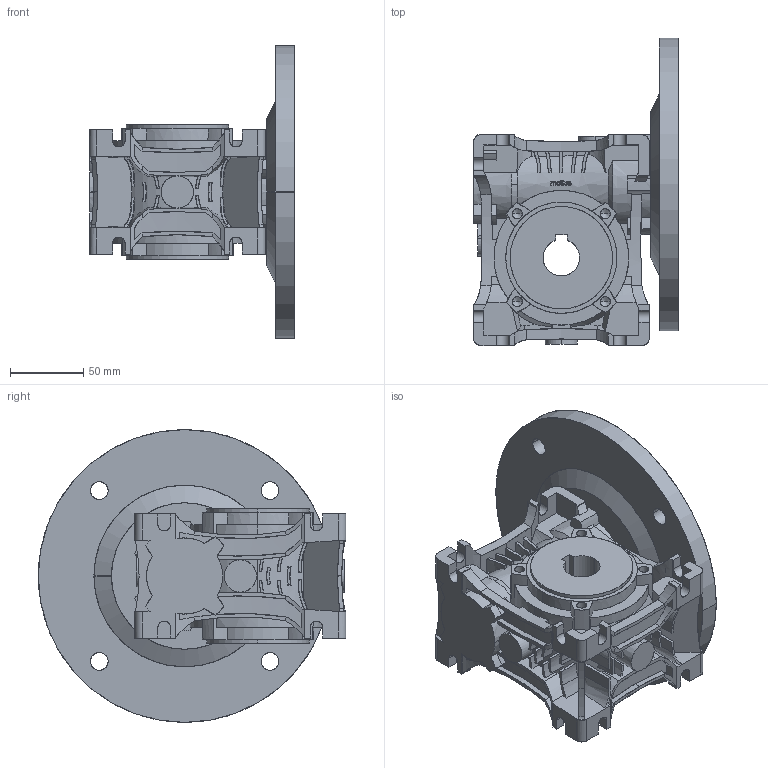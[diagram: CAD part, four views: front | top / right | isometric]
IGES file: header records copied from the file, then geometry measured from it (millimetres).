
Start section: SolidWorks IGES file using analytic representation for surfaces
Global section: file name: E:\Progettazione\Motive\BOX050\IGS\BOX50_PAM80B5_IGS.IGS; native system: SolidWorks 2016; preprocessor: SolidWorks 2016; author: Alberto; date: 180709.162700; units: millimetre
Bounding box: 140 x 210 x 200 mm (x, y, z)
Surface area: 221222.3 mm2 (no closed solid volume)
Topology: 0 solids, 0 shells, 1336 faces, 12893 edges, 12877 vertices
Faces by surface type: bspline 725, revolution 611
